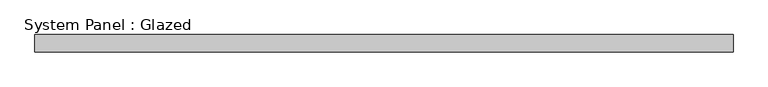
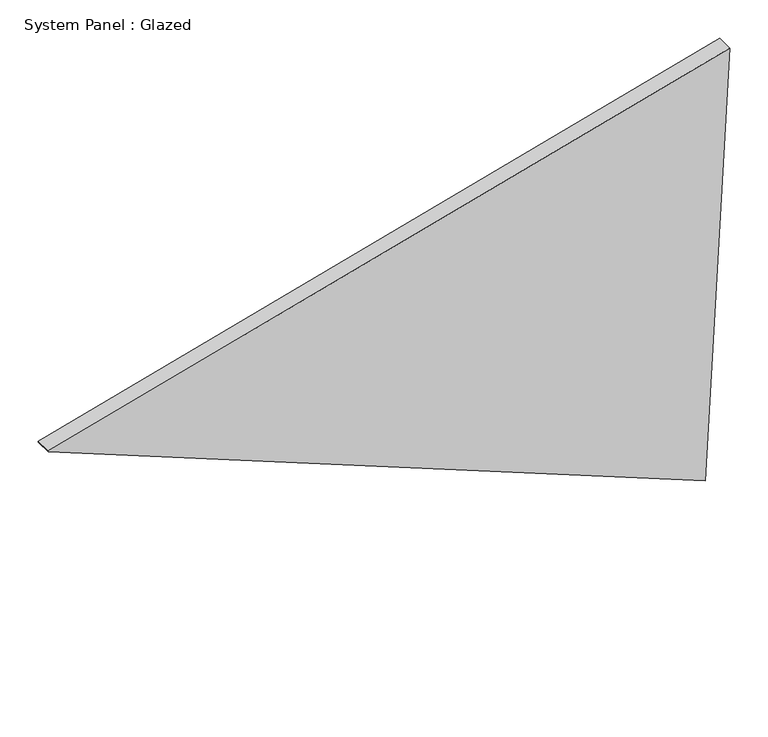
"""IFC4 building model written with IfcOpenShell, lengths in millimetres: plate geometry, System Panel : Glazed."""

from ifc_helpers import new_model, si_unit, frame, origin, place, context, project, spatial, polyline, outline, extrude, source, transform, mapped, element, save


def system_panel_glazed_6a8e4244(model_context):
    return source(origin(), model_context, "Body", "SweptSolid", [
        extrude(outline(polyline([(392.405066, -513.1698055), (0.0, 476.1238905), (675.9698497, 513.1698055), (394.0248751, -513.0810333), (392.405066, -513.1698055)])), frame((0.0, -44.45, 0.0), z_axis=(0.0, 1.0, 0.0), x_axis=(0.0, 0.0, 1.0)), (0.0, 0.0, 1.0), 25.4),
    ])


if __name__ == "__main__":
    model = new_model("IFC4")
    model_context = context("Model", 3, world=origin())
    ifc_project = project(units=[si_unit("LENGTHUNIT", "METRE", prefix="MILLI")], contexts=[model_context])
    site = spatial("IfcSite", under=ifc_project)
    building = spatial("IfcBuilding", under=site)
    placement = place(None, origin())
    system_panel_glazed_shape = system_panel_glazed_6a8e4244(model_context)
    element("IfcPlate", 1, ObjectType="System Panel : Glazed", at=placement, inside=building, context=model_context, shape_type="MappedRepresentation", body=[
        mapped(system_panel_glazed_shape, transform((0.0, 0.0, 0.0), x_axis=(1.0, 0.0, 0.0), y_axis=(0.0, 1.0, 0.0), z_axis=(0.0, 0.0, 1.0))),
    ])
    save(model, "model.ifc")
